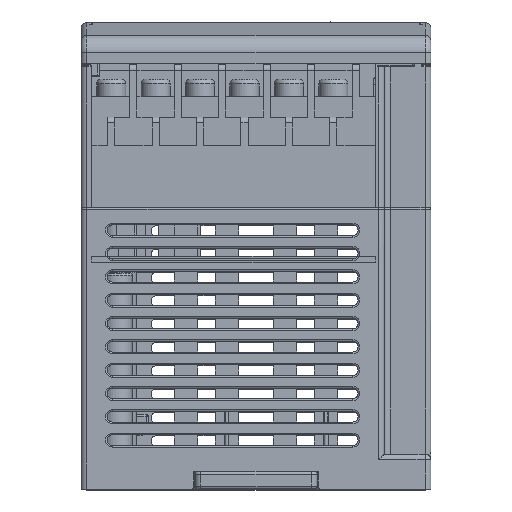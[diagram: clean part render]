
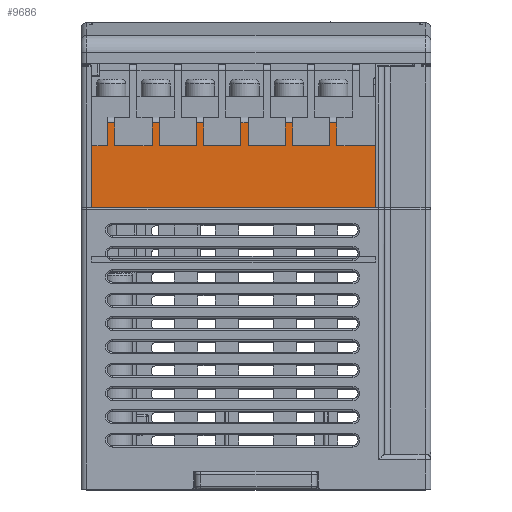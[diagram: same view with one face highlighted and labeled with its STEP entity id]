
A CAD part, top view. The second image highlights one B-rep face of the part: STEP entity #9686.
In plain terms, the highlighted planar face has unit normal (0, 0, 1).
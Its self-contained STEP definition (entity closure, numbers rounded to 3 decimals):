
#1916=DIRECTION('',(0.,1.,0.));
#1917=VECTOR('',#1916,10.6);
#1918=CARTESIAN_POINT('',(0.,-7.55,8.75));
#1919=LINE('',#1918,#1917);
#2712=DIRECTION('',(0.,-1.,0.));
#2713=VECTOR('',#2712,3.9);
#2714=CARTESIAN_POINT('',(-44.66,6.95,8.75));
#2715=LINE('',#2714,#2713);
#2719=DIRECTION('',(1.,0.,0.));
#2720=VECTOR('',#2719,6.4);
#2721=CARTESIAN_POINT('',(-44.66,3.05,8.75));
#2722=LINE('',#2721,#2720);
#2726=DIRECTION('',(0.,-1.,0.));
#2727=VECTOR('',#2726,3.9);
#2728=CARTESIAN_POINT('',(-38.26,6.95,8.75));
#2729=LINE('',#2728,#2727);
#2733=DIRECTION('',(0.,-1.,0.));
#2734=VECTOR('',#2733,3.9);
#2735=CARTESIAN_POINT('',(-37.04,6.95,8.75));
#2736=LINE('',#2735,#2734);
#2740=DIRECTION('',(1.,0.,0.));
#2741=VECTOR('',#2740,6.4);
#2742=CARTESIAN_POINT('',(-37.04,3.05,8.75));
#2743=LINE('',#2742,#2741);
#2747=DIRECTION('',(0.,-1.,0.));
#2748=VECTOR('',#2747,3.9);
#2749=CARTESIAN_POINT('',(-30.64,6.95,8.75));
#2750=LINE('',#2749,#2748);
#2754=DIRECTION('',(0.,-1.,0.));
#2755=VECTOR('',#2754,3.9);
#2756=CARTESIAN_POINT('',(-29.42,6.95,8.75));
#2757=LINE('',#2756,#2755);
#2761=DIRECTION('',(1.,0.,0.));
#2762=VECTOR('',#2761,6.4);
#2763=CARTESIAN_POINT('',(-29.42,3.05,8.75));
#2764=LINE('',#2763,#2762);
#2768=DIRECTION('',(0.,-1.,0.));
#2769=VECTOR('',#2768,3.9);
#2770=CARTESIAN_POINT('',(-23.02,6.95,8.75));
#2771=LINE('',#2770,#2769);
#2775=DIRECTION('',(0.,-1.,0.));
#2776=VECTOR('',#2775,3.9);
#2777=CARTESIAN_POINT('',(-21.8,6.95,8.75));
#2778=LINE('',#2777,#2776);
#2782=DIRECTION('',(1.,0.,0.));
#2783=VECTOR('',#2782,6.4);
#2784=CARTESIAN_POINT('',(-21.8,3.05,8.75));
#2785=LINE('',#2784,#2783);
#2789=DIRECTION('',(0.,-1.,0.));
#2790=VECTOR('',#2789,3.9);
#2791=CARTESIAN_POINT('',(-15.4,6.95,8.75));
#2792=LINE('',#2791,#2790);
#2796=DIRECTION('',(0.,-1.,0.));
#2797=VECTOR('',#2796,3.9);
#2798=CARTESIAN_POINT('',(-14.18,6.95,8.75));
#2799=LINE('',#2798,#2797);
#2803=DIRECTION('',(1.,0.,0.));
#2804=VECTOR('',#2803,6.4);
#2805=CARTESIAN_POINT('',(-14.18,3.05,8.75));
#2806=LINE('',#2805,#2804);
#2810=DIRECTION('',(0.,-1.,0.));
#2811=VECTOR('',#2810,3.9);
#2812=CARTESIAN_POINT('',(-7.78,6.95,8.75));
#2813=LINE('',#2812,#2811);
#2817=DIRECTION('',(0.,-1.,0.));
#2818=VECTOR('',#2817,3.9);
#2819=CARTESIAN_POINT('',(-6.56,6.95,8.75));
#2820=LINE('',#2819,#2818);
#2824=DIRECTION('',(1.,0.,0.));
#2825=VECTOR('',#2824,6.56);
#2826=CARTESIAN_POINT('',(-6.56,3.05,8.75));
#2827=LINE('',#2826,#2825);
#2831=DIRECTION('',(1.,0.,0.));
#2832=VECTOR('',#2831,2.74);
#2833=CARTESIAN_POINT('',(-48.62,3.05,8.75));
#2834=LINE('',#2833,#2832);
#2838=DIRECTION('',(0.,-1.,0.));
#2839=VECTOR('',#2838,3.9);
#2840=CARTESIAN_POINT('',(-45.88,6.95,8.75));
#2841=LINE('',#2840,#2839);
#2860=DIRECTION('',(-1.,0.,0.));
#2861=VECTOR('',#2860,1.22);
#2862=CARTESIAN_POINT('',(-44.66,6.95,8.75));
#2863=LINE('',#2862,#2861);
#3099=DIRECTION('',(0.,1.,0.));
#3100=VECTOR('',#3099,10.6);
#3101=CARTESIAN_POINT('',(-48.62,-7.55,8.75));
#3102=LINE('',#3101,#3100);
#3162=DIRECTION('',(1.,0.,0.));
#3163=VECTOR('',#3162,48.62);
#3164=CARTESIAN_POINT('',(-48.62,-7.55,8.75));
#3165=LINE('',#3164,#3163);
#6303=DIRECTION('',(-1.,0.,0.));
#6304=VECTOR('',#6303,1.22);
#6305=CARTESIAN_POINT('',(-6.56,6.95,8.75));
#6306=LINE('',#6305,#6304);
#6480=DIRECTION('',(-1.,0.,0.));
#6481=VECTOR('',#6480,1.22);
#6482=CARTESIAN_POINT('',(-14.18,6.95,8.75));
#6483=LINE('',#6482,#6481);
#6545=DIRECTION('',(-1.,0.,0.));
#6546=VECTOR('',#6545,1.22);
#6547=CARTESIAN_POINT('',(-21.8,6.95,8.75));
#6548=LINE('',#6547,#6546);
#6610=DIRECTION('',(-1.,0.,0.));
#6611=VECTOR('',#6610,1.22);
#6612=CARTESIAN_POINT('',(-29.42,6.95,8.75));
#6613=LINE('',#6612,#6611);
#6675=DIRECTION('',(-1.,0.,0.));
#6676=VECTOR('',#6675,1.22);
#6677=CARTESIAN_POINT('',(-37.04,6.95,8.75));
#6678=LINE('',#6677,#6676);
#8106=CARTESIAN_POINT('',(0.,-7.55,8.75));
#8108=VERTEX_POINT('',#8106);
#8114=CARTESIAN_POINT('',(-48.62,-7.55,8.75));
#8116=VERTEX_POINT('',#8114);
#8269=CARTESIAN_POINT('',(-6.56,3.05,8.75));
#8270=CARTESIAN_POINT('',(0.,3.05,8.75));
#8271=VERTEX_POINT('',#8269);
#8272=VERTEX_POINT('',#8270);
#8273=CARTESIAN_POINT('',(-14.18,3.05,8.75));
#8274=CARTESIAN_POINT('',(-7.78,3.05,8.75));
#8275=VERTEX_POINT('',#8273);
#8276=VERTEX_POINT('',#8274);
#8277=CARTESIAN_POINT('',(-21.8,3.05,8.75));
#8278=CARTESIAN_POINT('',(-15.4,3.05,8.75));
#8279=VERTEX_POINT('',#8277);
#8280=VERTEX_POINT('',#8278);
#8281=CARTESIAN_POINT('',(-29.42,3.05,8.75));
#8282=CARTESIAN_POINT('',(-23.02,3.05,8.75));
#8283=VERTEX_POINT('',#8281);
#8284=VERTEX_POINT('',#8282);
#8285=CARTESIAN_POINT('',(-37.04,3.05,8.75));
#8286=CARTESIAN_POINT('',(-30.64,3.05,8.75));
#8287=VERTEX_POINT('',#8285);
#8288=VERTEX_POINT('',#8286);
#8289=CARTESIAN_POINT('',(-44.66,3.05,8.75));
#8290=CARTESIAN_POINT('',(-38.26,3.05,8.75));
#8291=VERTEX_POINT('',#8289);
#8292=VERTEX_POINT('',#8290);
#9145=CARTESIAN_POINT('',(-44.66,6.95,8.75));
#9146=CARTESIAN_POINT('',(-45.88,6.95,8.75));
#9147=VERTEX_POINT('',#9145);
#9148=VERTEX_POINT('',#9146);
#9153=CARTESIAN_POINT('',(-37.04,6.95,8.75));
#9154=CARTESIAN_POINT('',(-38.26,6.95,8.75));
#9155=VERTEX_POINT('',#9153);
#9156=VERTEX_POINT('',#9154);
#9161=CARTESIAN_POINT('',(-29.42,6.95,8.75));
#9162=CARTESIAN_POINT('',(-30.64,6.95,8.75));
#9163=VERTEX_POINT('',#9161);
#9164=VERTEX_POINT('',#9162);
#9169=CARTESIAN_POINT('',(-21.8,6.95,8.75));
#9170=CARTESIAN_POINT('',(-23.02,6.95,8.75));
#9171=VERTEX_POINT('',#9169);
#9172=VERTEX_POINT('',#9170);
#9177=CARTESIAN_POINT('',(-14.18,6.95,8.75));
#9178=CARTESIAN_POINT('',(-15.4,6.95,8.75));
#9179=VERTEX_POINT('',#9177);
#9180=VERTEX_POINT('',#9178);
#9185=CARTESIAN_POINT('',(-6.56,6.95,8.75));
#9186=CARTESIAN_POINT('',(-7.78,6.95,8.75));
#9187=VERTEX_POINT('',#9185);
#9188=VERTEX_POINT('',#9186);
#9239=CARTESIAN_POINT('',(-48.62,3.05,8.75));
#9241=VERTEX_POINT('',#9239);
#9243=CARTESIAN_POINT('',(-45.88,3.05,8.75));
#9244=VERTEX_POINT('',#9243);
#9625=CARTESIAN_POINT('',(0.,7.95,8.75));
#9626=DIRECTION('',(0.,0.,1.));
#9627=DIRECTION('',(0.,-1.,0.));
#9628=AXIS2_PLACEMENT_3D('',#9625,#9626,#9627);
#9629=PLANE('',#9628);
#9631=ORIENTED_EDGE('',*,*,#9630,.F.);
#9633=ORIENTED_EDGE('',*,*,#9632,.T.);
#9635=ORIENTED_EDGE('',*,*,#9634,.T.);
#9637=ORIENTED_EDGE('',*,*,#9636,.F.);
#9639=ORIENTED_EDGE('',*,*,#9638,.F.);
#9641=ORIENTED_EDGE('',*,*,#9640,.T.);
#9643=ORIENTED_EDGE('',*,*,#9642,.T.);
#9645=ORIENTED_EDGE('',*,*,#9644,.F.);
#9647=ORIENTED_EDGE('',*,*,#9646,.F.);
#9649=ORIENTED_EDGE('',*,*,#9648,.T.);
#9651=ORIENTED_EDGE('',*,*,#9650,.T.);
#9653=ORIENTED_EDGE('',*,*,#9652,.F.);
#9655=ORIENTED_EDGE('',*,*,#9654,.F.);
#9657=ORIENTED_EDGE('',*,*,#9656,.T.);
#9659=ORIENTED_EDGE('',*,*,#9658,.T.);
#9661=ORIENTED_EDGE('',*,*,#9660,.F.);
#9663=ORIENTED_EDGE('',*,*,#9662,.F.);
#9665=ORIENTED_EDGE('',*,*,#9664,.T.);
#9667=ORIENTED_EDGE('',*,*,#9666,.T.);
#9668=ORIENTED_EDGE('',*,*,#9609,.F.);
#9670=ORIENTED_EDGE('',*,*,#9669,.F.);
#9672=ORIENTED_EDGE('',*,*,#9671,.T.);
#9674=ORIENTED_EDGE('',*,*,#9673,.T.);
#9675=ORIENTED_EDGE('',*,*,#9272,.F.);
#9677=ORIENTED_EDGE('',*,*,#9676,.F.);
#9679=ORIENTED_EDGE('',*,*,#9678,.T.);
#9681=ORIENTED_EDGE('',*,*,#9680,.T.);
#9683=ORIENTED_EDGE('',*,*,#9682,.F.);
#9684=EDGE_LOOP('',(#9631,#9633,#9635,#9637,#9639,#9641,#9643,#9645,#9647,#9649,
#9651,#9653,#9655,#9657,#9659,#9661,#9663,#9665,#9667,#9668,#9670,#9672,#9674,
#9675,#9677,#9679,#9681,#9683));
#9685=FACE_OUTER_BOUND('',#9684,.F.);
#9686=ADVANCED_FACE('',(#9685),#9629,.T.);
#9272=EDGE_CURVE('',#8108,#8272,#1919,.T.);
#9609=EDGE_CURVE('',#9188,#8276,#2813,.T.);
#9630=EDGE_CURVE('',#9147,#9148,#2863,.T.);
#9632=EDGE_CURVE('',#9147,#8291,#2715,.T.);
#9634=EDGE_CURVE('',#8291,#8292,#2722,.T.);
#9636=EDGE_CURVE('',#9156,#8292,#2729,.T.);
#9638=EDGE_CURVE('',#9155,#9156,#6678,.T.);
#9640=EDGE_CURVE('',#9155,#8287,#2736,.T.);
#9642=EDGE_CURVE('',#8287,#8288,#2743,.T.);
#9644=EDGE_CURVE('',#9164,#8288,#2750,.T.);
#9646=EDGE_CURVE('',#9163,#9164,#6613,.T.);
#9648=EDGE_CURVE('',#9163,#8283,#2757,.T.);
#9650=EDGE_CURVE('',#8283,#8284,#2764,.T.);
#9652=EDGE_CURVE('',#9172,#8284,#2771,.T.);
#9654=EDGE_CURVE('',#9171,#9172,#6548,.T.);
#9656=EDGE_CURVE('',#9171,#8279,#2778,.T.);
#9658=EDGE_CURVE('',#8279,#8280,#2785,.T.);
#9660=EDGE_CURVE('',#9180,#8280,#2792,.T.);
#9662=EDGE_CURVE('',#9179,#9180,#6483,.T.);
#9664=EDGE_CURVE('',#9179,#8275,#2799,.T.);
#9666=EDGE_CURVE('',#8275,#8276,#2806,.T.);
#9669=EDGE_CURVE('',#9187,#9188,#6306,.T.);
#9671=EDGE_CURVE('',#9187,#8271,#2820,.T.);
#9673=EDGE_CURVE('',#8271,#8272,#2827,.T.);
#9676=EDGE_CURVE('',#8116,#8108,#3165,.T.);
#9678=EDGE_CURVE('',#8116,#9241,#3102,.T.);
#9680=EDGE_CURVE('',#9241,#9244,#2834,.T.);
#9682=EDGE_CURVE('',#9148,#9244,#2841,.T.);
